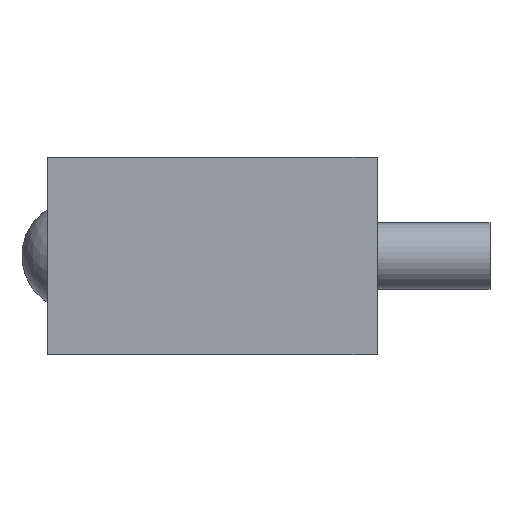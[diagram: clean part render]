
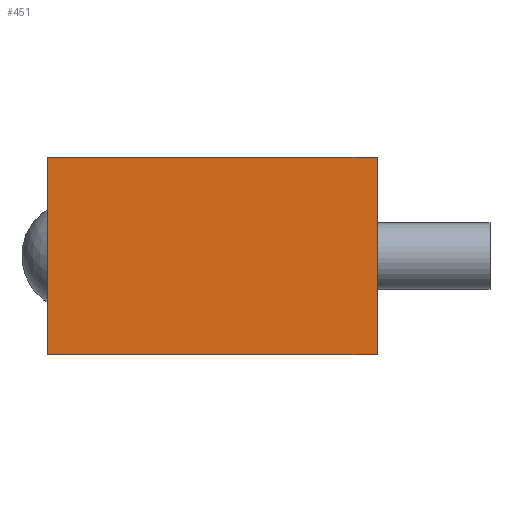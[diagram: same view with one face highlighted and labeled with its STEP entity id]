
A CAD part, left-side view. The second image highlights one B-rep face of the part: STEP entity #451.
In plain terms, the highlighted planar face has unit normal (-1, 0, 0).
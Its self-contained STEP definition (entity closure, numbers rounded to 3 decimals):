
#21=LINE('',#751,#37);
#27=LINE('',#766,#43);
#31=LINE('',#778,#47);
#33=LINE('',#781,#49);
#37=VECTOR('',#636,10.);
#43=VECTOR('',#646,10.);
#47=VECTOR('',#662,10.);
#49=VECTOR('',#666,10.);
#84=PLANE('',#531);
#116=FACE_OUTER_BOUND('',#170,.T.);
#170=EDGE_LOOP('',(#357,#358,#359,#360));
#226=VERTEX_POINT('',#749);
#227=VERTEX_POINT('',#750);
#233=VERTEX_POINT('',#763);
#234=VERTEX_POINT('',#765);
#264=EDGE_CURVE('',#226,#227,#21,.T.);
#271=EDGE_CURVE('',#233,#234,#27,.T.);
#277=EDGE_CURVE('',#234,#226,#31,.T.);
#279=EDGE_CURVE('',#227,#233,#33,.T.);
#357=ORIENTED_EDGE('',*,*,#271,.F.);
#358=ORIENTED_EDGE('',*,*,#279,.F.);
#359=ORIENTED_EDGE('',*,*,#264,.F.);
#360=ORIENTED_EDGE('',*,*,#277,.F.);
#451=ADVANCED_FACE('',(#116),#84,.T.);
#531=AXIS2_PLACEMENT_3D('',#780,#664,#665);
#636=DIRECTION('',(0.,0.,1.));
#646=DIRECTION('',(0.,0.,-1.));
#662=DIRECTION('',(0.,1.,0.));
#664=DIRECTION('center_axis',(-1.,0.,0.));
#665=DIRECTION('ref_axis',(0.,-1.,0.));
#666=DIRECTION('',(0.,-1.,0.));
#749=CARTESIAN_POINT('',(-190.,14.9,-8.9));
#750=CARTESIAN_POINT('',(-190.,14.9,8.9));
#751=CARTESIAN_POINT('',(-190.,14.9,0.));
#763=CARTESIAN_POINT('',(-190.,-14.9,8.9));
#765=CARTESIAN_POINT('',(-190.,-14.9,-8.9));
#766=CARTESIAN_POINT('',(-190.,-14.9,0.));
#778=CARTESIAN_POINT('',(-190.,14.9,-8.9));
#780=CARTESIAN_POINT('Origin',(-190.,14.9,0.));
#781=CARTESIAN_POINT('',(-190.,14.9,8.9));
